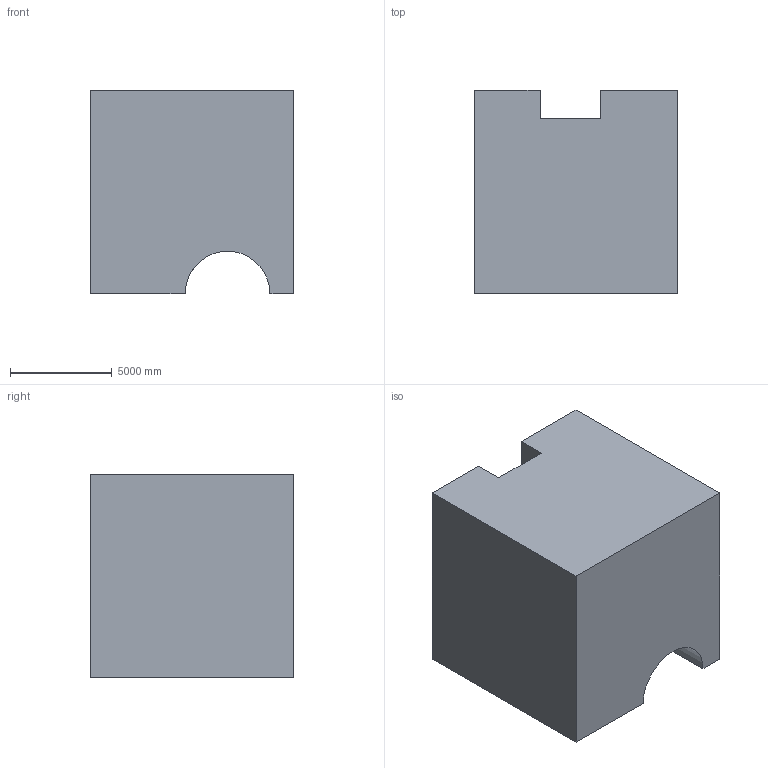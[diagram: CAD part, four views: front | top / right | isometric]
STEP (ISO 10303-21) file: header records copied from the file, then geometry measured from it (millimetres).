
FILE_DESCRIPTION (( 'STEP AP203' ), '1' );
FILE_NAME ('1104.STEP', '2022-08-18T12:46:39', ( 'user' ), ( '' ), 'SwSTEP 2.0', 'SolidWorks 2021', '' );
FILE_SCHEMA (( 'CONFIG_CONTROL_DESIGN' ));
Length unit declared in the file: centimetre
Products named in the file (1): 1104
Bounding box: 10000 x 10000 x 10000 mm (x, y, z)
Volume: 893633839482.3 mm3; surface area: 625319575.5 mm2
Topology: 1 solids, 1 shells, 13 faces, 33 edges, 22 vertices
Faces by surface type: plane 11, cylinder 2
Entity records: 469 total; most frequent: CARTESIAN_POINT 69, DIRECTION 66, ORIENTED_EDGE 66, EDGE_CURVE 33, LINE 28, VECTOR 28, VERTEX_POINT 22, AXIS2_PLACEMENT_3D 19
